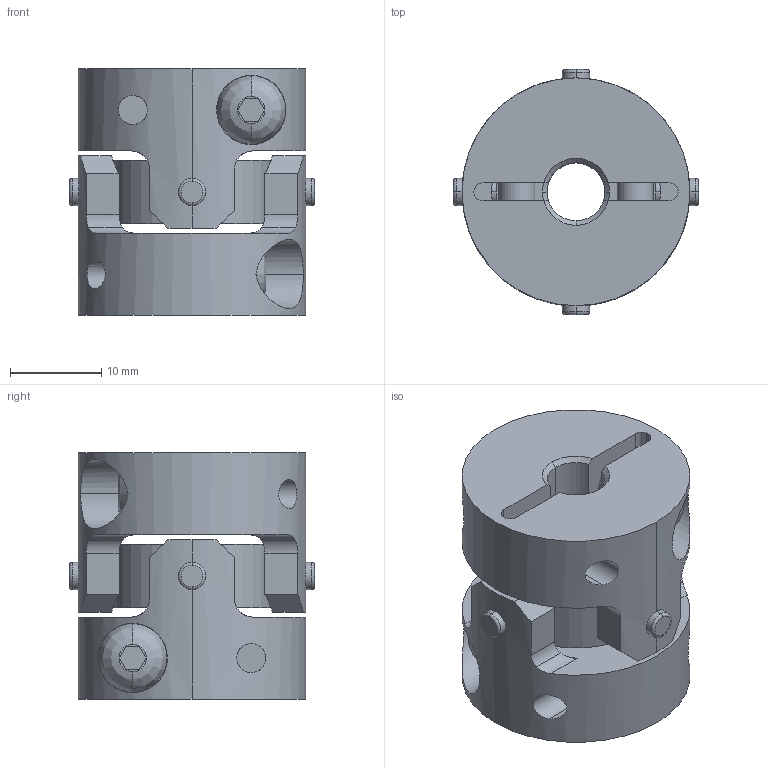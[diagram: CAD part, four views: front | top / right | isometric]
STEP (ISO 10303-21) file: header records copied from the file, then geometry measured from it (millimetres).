
FILE_DESCRIPTION((''),'2;1');
FILE_NAME('UA-25C-6.35×6.35.stp','2013-05-16T09:18:37',(''),(''),'AutoCAD STEP 2000i','AutoCAD 2000i',', , ');
FILE_SCHEMA(('CONFIG_CONTROL_DESIGN'));
Length unit declared in the file: millimetre
Products named in the file (6): UA-25C-5×5; 忣兜1; UA-2502-D05-1; BTN-M4; UA-2502-D05; UA25-SEN
Assembly tree (6 placements, depth 3):
  UA-25C-5×5
    忣兜1
    UA-2502-D05-1
      BTN-M4
    UA-2502-D05
      BTN-M4
    UA25-SEN
Bounding box: 26.89 x 26.89 x 27 mm (x, y, z)
Volume: 9320.1 mm3; surface area: 6491.5 mm2
Topology: 1 solids, 1 shells, 206 faces, 554 edges, 364 vertices
Faces by surface type: cylinder 96, plane 78, cone 16, bspline 8, torus 8
Entity records: 8291 total; most frequent: CARTESIAN_POINT 2975, ORIENTED_EDGE 1108, DIRECTION 1064, EDGE_CURVE 554, AXIS2_PLACEMENT_3D 409, VERTEX_POINT 364, VECTOR 246, LINE 246
